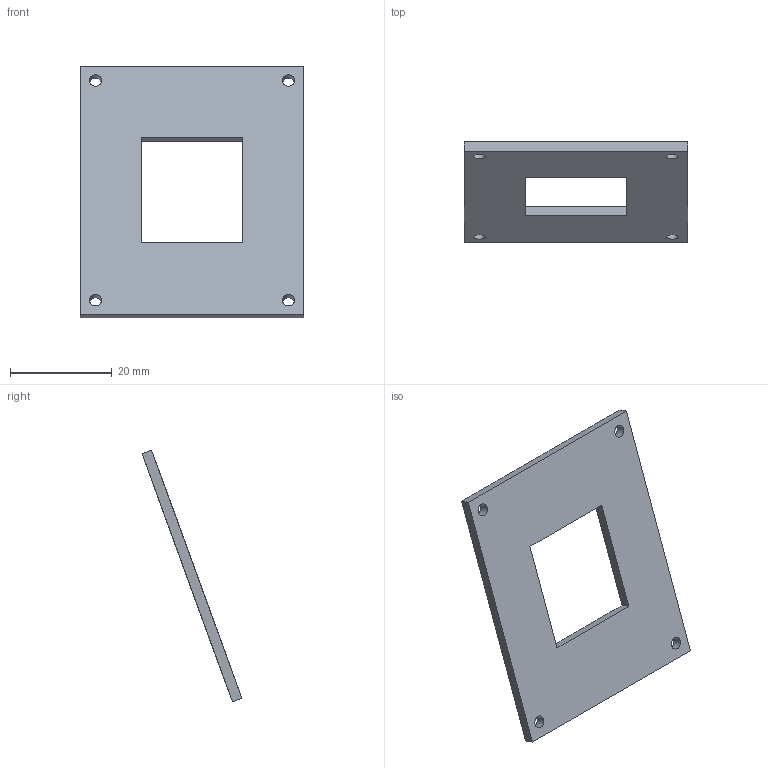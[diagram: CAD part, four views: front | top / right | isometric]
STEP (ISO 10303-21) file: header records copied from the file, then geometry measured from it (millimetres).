
FILE_DESCRIPTION(('Open CASCADE Model'),'2;1');
FILE_NAME('Open CASCADE Shape Model','2026-10-07T20:49:38',('Author'),( 'Open CASCADE'),'Open CASCADE STEP processor 7.9','Open CASCADE 7.9' ,'Unknown');
FILE_SCHEMA(('AUTOMOTIVE_DESIGN { 1 0 10303 214 1 1 1 1 }'));
Length unit declared in the file: millimetre
Products named in the file (1): Open CASCADE STEP translator 7.9 5
Bounding box: 44 x 19.66 x 49.55 mm (x, y, z)
Volume: 3659.8 mm3; surface area: 4272.1 mm2
Topology: 1 solids, 1 shells, 14 faces, 36 edges, 24 vertices
Faces by surface type: plane 10, cylinder 4
Full cylindrical faces by diameter (mm): 2.4 x4
Entity records: 910 total; most frequent: CARTESIAN_POINT 163, DIRECTION 130, LINE 76, VECTOR 76, ORIENTED_EDGE 72, PCURVE 72, DEFINITIONAL_REPRESENTATION 72, EDGE_CURVE 36
